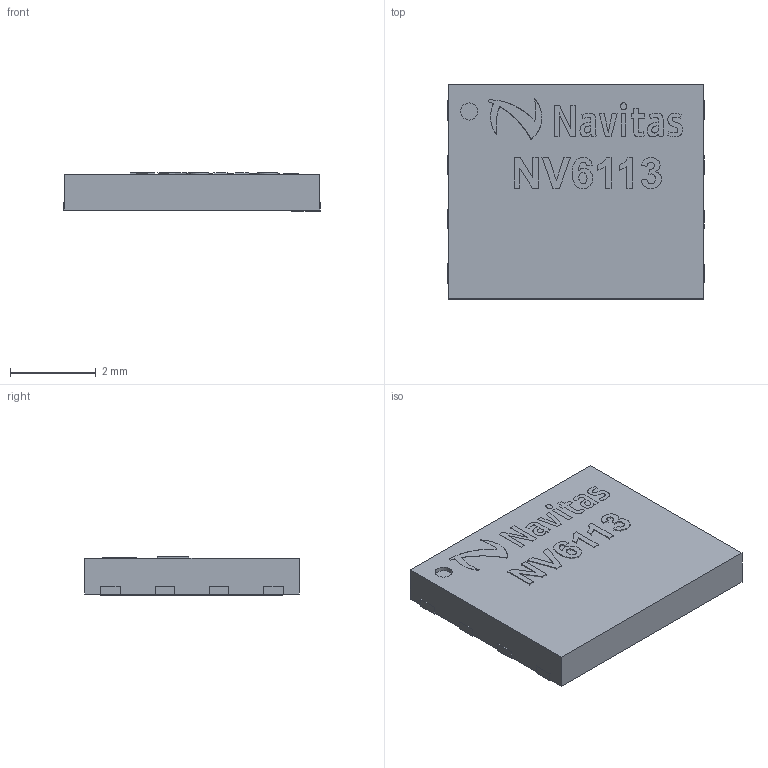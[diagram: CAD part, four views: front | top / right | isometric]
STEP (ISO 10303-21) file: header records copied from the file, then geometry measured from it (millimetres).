
FILE_DESCRIPTION(/* description */ (''),/* implementation_level */ '2;1');
FILE_NAME(/* name */ 'C:/Users/Tom/Documents/NV6113.stp',/* time_stamp */ '2020-03-02T11:18:43-08:00',/* author */ (''),/* organization */ (''),/* preprocessor_version */ 'ST-DEVELOPER v15.2',/* originating_system */ 'Autodesk Translator Framework v2.0.0.5431',/* authorisation */ '');
FILE_SCHEMA (('AUTOMOTIVE_DESIGN { 1 0 10303 214 3 1 1 }'));
Length unit declared in the file: centimetre
Products named in the file (1): NV6113
Bounding box: 6 x 5 x 0.89 mm (x, y, z)
Surface area: 123.3 mm2
Topology: 22 solids, 22 shells, 671 faces, 1879 edges, 1253 vertices
Faces by surface type: bspline 504, plane 166, cylinder 1
Full cylindrical faces by diameter (mm): 0.4 x1
Entity records: 26111 total; most frequent: CARTESIAN_POINT 13089, ORIENTED_EDGE 3754, EDGE_CURVE 1877, VERTEX_POINT 1252, DIRECTION 1207, LINE 867, VECTOR 867, EDGE_LOOP 679
